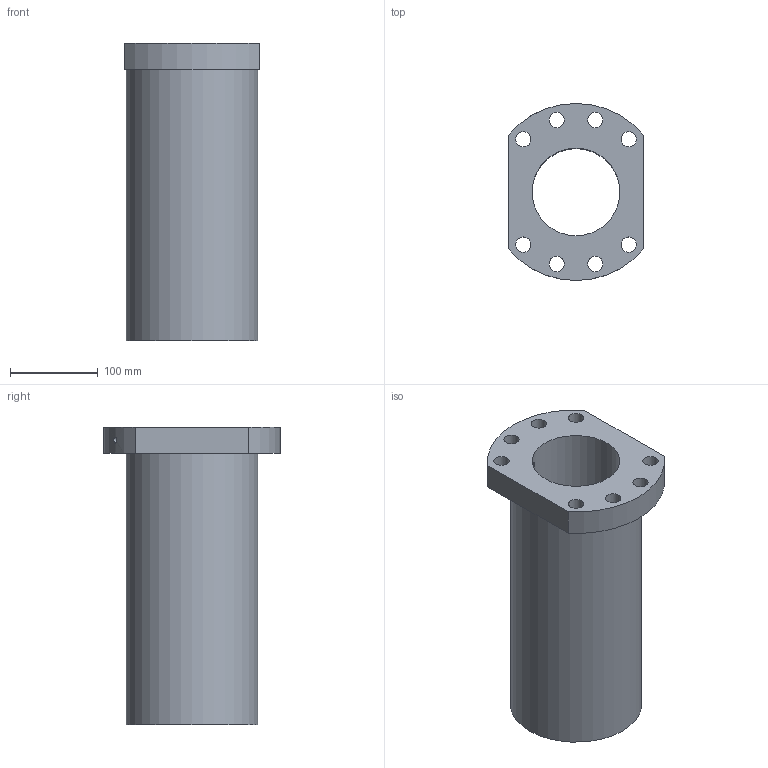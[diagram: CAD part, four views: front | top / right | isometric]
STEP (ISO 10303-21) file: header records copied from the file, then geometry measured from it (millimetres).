
FILE_DESCRIPTION(('FreeCAD Model'),'2;1');
FILE_NAME('Open CASCADE Shape Model','2025-05-05T08:55:41',('Author'),( ''),'Open CASCADE STEP processor 7.5','FreeCAD','Unknown');
FILE_SCHEMA(('AUTOMOTIVE_DESIGN { 1 0 10303 214 1 1 1 1 }'));
Length unit declared in the file: millimetre
Products named in the file (1): Product$1$ATF
Bounding box: 155 x 202 x 340 mm (x, y, z)
Volume: 3584612.5 mm3; surface area: 321722.6 mm2
Topology: 1 solids, 1 shells, 18 faces, 49 edges, 34 vertices
Faces by surface type: cylinder 13, plane 5
Full cylindrical faces by diameter (mm): 7 x1, 17.5 x8, 100 x1, 150 x1
Entity records: 1946 total; most frequent: CARTESIAN_POINT 919, DIRECTION 186, ORIENTED_EDGE 98, PCURVE 98, DEFINITIONAL_REPRESENTATION 98, LINE 83, VECTOR 83, EDGE_CURVE 49
